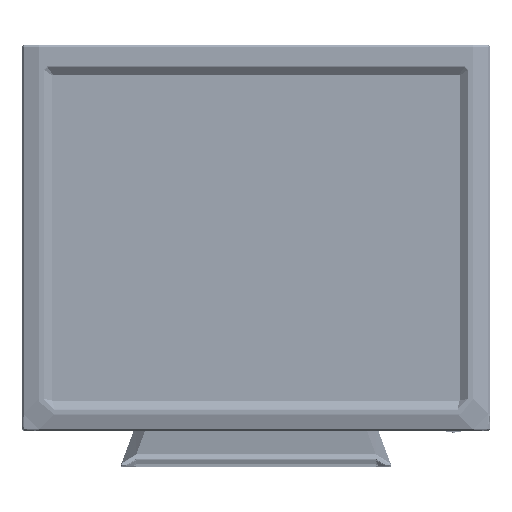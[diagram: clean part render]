
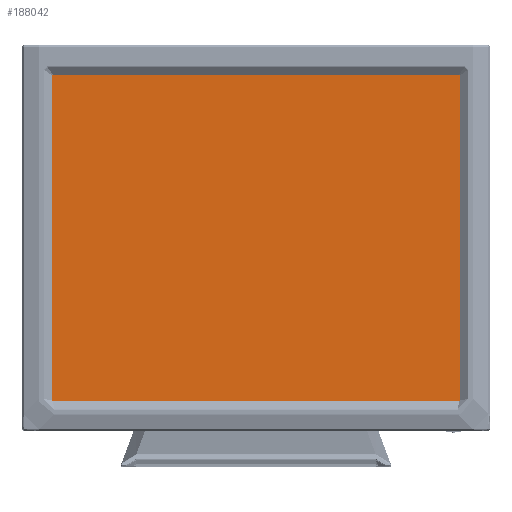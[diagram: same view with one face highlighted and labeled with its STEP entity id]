
A CAD part, top view. The second image highlights one B-rep face of the part: STEP entity #188042.
In plain terms, the highlighted planar face has unit normal (0, 0, 1).
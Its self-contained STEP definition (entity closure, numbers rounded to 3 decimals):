
#8230 = VECTOR ( 'NONE', #303564, 1000. ) ;
#12459 = DIRECTION ( 'NONE',  ( 1., 0., 0. ) ) ;
#23244 = LINE ( 'NONE', #274592, #463880 ) ;
#32779 = CARTESIAN_POINT ( 'NONE',  ( 199.81, 0., -65.2 ) ) ;
#34898 = CARTESIAN_POINT ( 'NONE',  ( -199.81, 163.855, -65.2 ) ) ;
#74504 = EDGE_CURVE ( 'NONE', #207856, #510830, #232943, .T. ) ;
#84683 = CARTESIAN_POINT ( 'NONE',  ( 0., 163.855, -65.2 ) ) ;
#96479 = EDGE_LOOP ( 'NONE', ( #295387, #101993, #677112, #741158 ) ) ;
#101993 = ORIENTED_EDGE ( 'NONE', *, *, #74504, .T. ) ;
#154652 = LINE ( 'NONE', #32779, #239242 ) ;
#163693 = VERTEX_POINT ( 'NONE', #504006 ) ;
#188042 = ADVANCED_FACE ( 'NONE', ( #374128 ), #433055, .T. ) ;
#207856 = VERTEX_POINT ( 'NONE', #34898 ) ;
#232943 = LINE ( 'NONE', #720536, #8230 ) ;
#235382 = EDGE_CURVE ( 'NONE', #163693, #498871, #154652, .T. ) ;
#235864 = AXIS2_PLACEMENT_3D ( 'NONE', #429222, #303541, #12459 ) ;
#239242 = VECTOR ( 'NONE', #508707, 1000. ) ;
#274592 = CARTESIAN_POINT ( 'NONE',  ( 0., -163.855, -65.2 ) ) ;
#295387 = ORIENTED_EDGE ( 'NONE', *, *, #358886, .T. ) ;
#303541 = DIRECTION ( 'NONE',  ( 0., 0., 1. ) ) ;
#303564 = DIRECTION ( 'NONE',  ( 0., -1., 0. ) ) ;
#358886 = EDGE_CURVE ( 'NONE', #498871, #207856, #457872, .T. ) ;
#374128 = FACE_OUTER_BOUND ( 'NONE', #96479, .T. ) ;
#383442 = DIRECTION ( 'NONE',  ( -1., 0., 0. ) ) ;
#399470 = CARTESIAN_POINT ( 'NONE',  ( -199.81, -163.855, -65.2 ) ) ;
#429222 = CARTESIAN_POINT ( 'NONE',  ( 0., 0., -65.2 ) ) ;
#433055 = PLANE ( 'NONE',  #235864 ) ;
#457872 = LINE ( 'NONE', #84683, #612709 ) ;
#463880 = VECTOR ( 'NONE', #683907, 1000. ) ;
#498871 = VERTEX_POINT ( 'NONE', #529156 ) ;
#504006 = CARTESIAN_POINT ( 'NONE',  ( 199.81, -163.855, -65.2 ) ) ;
#508707 = DIRECTION ( 'NONE',  ( 0., 1., 0. ) ) ;
#510830 = VERTEX_POINT ( 'NONE', #399470 ) ;
#529156 = CARTESIAN_POINT ( 'NONE',  ( 199.81, 163.855, -65.2 ) ) ;
#612709 = VECTOR ( 'NONE', #383442, 1000. ) ;
#677112 = ORIENTED_EDGE ( 'NONE', *, *, #750417, .T. ) ;
#683907 = DIRECTION ( 'NONE',  ( 1., 0., 0. ) ) ;
#720536 = CARTESIAN_POINT ( 'NONE',  ( -199.81, 0., -65.2 ) ) ;
#741158 = ORIENTED_EDGE ( 'NONE', *, *, #235382, .T. ) ;
#750417 = EDGE_CURVE ( 'NONE', #510830, #163693, #23244, .T. ) ;
